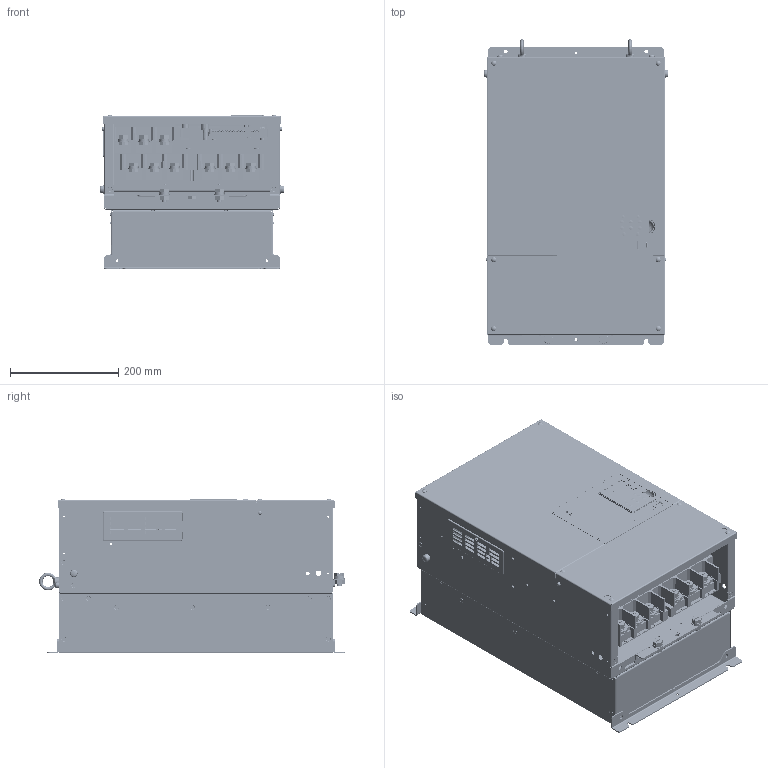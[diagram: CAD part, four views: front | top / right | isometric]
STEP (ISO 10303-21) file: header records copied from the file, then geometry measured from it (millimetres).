
FILE_DESCRIPTION((''),'2;1');
FILE_NAME('71616-AA4A0165AAA_ASM','2010-03-31T',('jc'),('YASKAWA ELECTRIC CORCORATION'),'PRO/ENGINEER BY PARAMETRIC TECHNOLOGY CORPORATION, 2008490','PRO/ENGINEER BY PARAMETRIC TECHNOLOGY CORPORATION, 2008490','');
FILE_SCHEMA(('CONFIG_CONTROL_DESIGN'));
Length unit declared in the file: millimetre
Products named in the file (124): LAY-AA4A0165AAA; ECAT31684-A-1; ECAT31684-A-2A-1_1; ECAT31684-A-2A-1_2; ECAT31684-A-2A-1_ASM; ECAT31684-A-2A-2-1_ASM; ECAT31684-A-2A-2-2_ASM; ECAT31684-A-2A_ASM; ECAT31684-A-3_1; ECAT31684-A-3_2; ECAT31684-A-3_ASM; ECAT31684-A-7_AF0; ECAT31684-A-7_AF1; ECAT31684-A-7_AF2; ECAT31684-A-7_AF3; ECAT31684-A-7_AF4; ECAT31684-A-7_AF5; ECAT31684-A-7_AF6; ECAT31684-A-7_AF7; ECAT31684-A-7_AF8; ECAT31684-A-7_AF9; ECAT31684-A-7_AF10; ECAT31684-A-7_AF11; ECAT31684-A-7_AF12; ECAT31684-A-7_AF13; ECAT31684-A-7; ECAT31684-A-7_AF14; ECAT31684-A-7_AF15; ECAT31684_ASM; BMDT41076; BMDT41077; ECAT31659-A-1A_1; ECAT31659-A-1A-2A_1; ECAT31659-A-1A-2A_2; ECAT31659-A-1A-2A_3; ECAT31659-A-1A-2A_ASM; ECAT31659-A-1A-3A_1; ECAT31659-A-1A-3A_2; ECAT31659-A-1A-3A_3; ECAT31659-A-1A-3A_ASM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
Assembly tree (198 placements, depth 7):
  71616-AA4A0165AAA_ASM
    LAY-AA4A0165AAA
    ECAT31684_ASM
      ECAT31684-A-1
      ECAT31684-A-2A_ASM
        ECAT31684-A-2A-1_ASM
          ECAT31684-A-2A-1_1
          ECAT31684-A-2A-1_2  x2
        ECAT31684-A-2A-2-1_ASM
        ECAT31684-A-2A-2-2_ASM
      ECAT31684-A-3_ASM
        ECAT31684-A-3_1
        ECAT31684-A-3_2  x4
      ECAT31684-A-7_AF0
      ECAT31684-A-7_AF1
      ECAT31684-A-7_AF2
      ECAT31684-A-7_AF3
      ECAT31684-A-7_AF4
      ECAT31684-A-7_AF5
      ECAT31684-A-7_AF6
      ECAT31684-A-7_AF7
      ECAT31684-A-7_AF8
      ECAT31684-A-7_AF9
      ECAT31684-A-7_AF10
      ECAT31684-A-7_AF11
      ECAT31684-A-7_AF12
      ECAT31684-A-7_AF13
      ECAT31684-A-7  x16
      ECAT31684-A-7_AF14
      ECAT31684-A-7_AF15
    BMDT41076
    BMDT41077
    ECAT31659_ASM
      ECAT31659-A-1A_ASM
        ECAT31659-A-1A_1
        ECAT31659-A-1A-2A_ASM
          ECAT31659-A-1A-2A_1
          ECAT31659-A-1A-2A_2  x2
          ECAT31659-A-1A-2A_3
        ECAT31659-A-1A-3A_ASM
          ECAT31659-A-1A-3A_1
          ECAT31659-A-1A-3A_2  x2
          ECAT31659-A-1A-3A_3
      ECAT31659-A-2
      ECAT31659-A-3  x8
      ECAT31659-A-3_AF0
      ECAT31659-A-3_AF1
      ECAT31659-A-3_AF2
      ECAT31659-A-3_AF3
    MS15_M6X16  x2
    MS15_M6X14  x4
    MS15_M8X20  x2
    TBET41264_ASM
      TBET41264_1
      TBET41264_2
      TBET41264_3  x2
    WS31_10  x2
    WS00_10  x2
    SCAT41185-5  x2
    CVST31383
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Bounding box: 341.8 x 565.1 x 285.84 mm (x, y, z)
Volume: 3097876.8 mm3; surface area: 2550379.8 mm2
Topology: 291 solids, 291 shells, 13478 faces, 35016 edges, 22498 vertices
Faces by surface type: plane 10082, cylinder 2138, cone 775, bspline 229, sphere 147, torus 107
Entity records: 382694 total; most frequent: CARTESIAN_POINT 78901, ORIENTED_EDGE 63442, DIRECTION 60173, EDGE_CURVE 31721, VECTOR 26271, LINE 26271, VERTEX_POINT 20541, AXIS2_PLACEMENT_3D 16951
